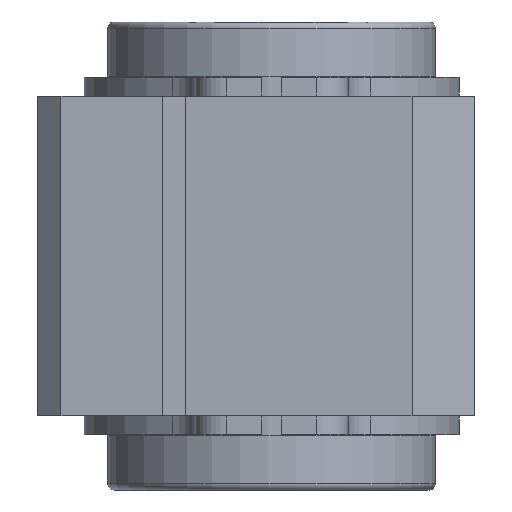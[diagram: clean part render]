
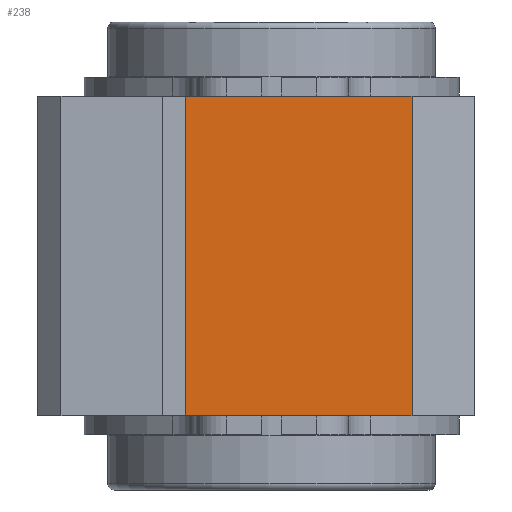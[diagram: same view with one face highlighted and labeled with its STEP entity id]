
A CAD part, left-side view. The second image highlights one B-rep face of the part: STEP entity #238.
In plain terms, the highlighted planar face has unit normal (-1, 0, 0).
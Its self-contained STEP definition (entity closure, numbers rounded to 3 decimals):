
#238=ADVANCED_FACE('',(#335),#336,.F.);
#335=FACE_OUTER_BOUND('',#506,.T.);
#336=PLANE('',#507);
#506=EDGE_LOOP('',(#785,#786,#787,#788));
#507=AXIS2_PLACEMENT_3D('',#789,#790,#791);
#785=ORIENTED_EDGE('',*,*,#1155,.T.);
#786=ORIENTED_EDGE('',*,*,#1174,.F.);
#787=ORIENTED_EDGE('',*,*,#1132,.F.);
#788=ORIENTED_EDGE('',*,*,#1175,.T.);
#789=CARTESIAN_POINT('',(-19.5,5.5,10.25));
#790=DIRECTION('',(1.0,0.,0.0));
#791=DIRECTION('',(0.,1.0,0.0));
#1132=EDGE_CURVE('',#1287,#1289,#1290,.T.);
#1155=EDGE_CURVE('',#1334,#1332,#1335,.T.);
#1174=EDGE_CURVE('',#1289,#1332,#1362,.T.);
#1175=EDGE_CURVE('',#1287,#1334,#1363,.T.);
#1287=VERTEX_POINT('',#1548);
#1289=VERTEX_POINT('',#1551);
#1290=LINE('',#1552,#1553);
#1332=VERTEX_POINT('',#1615);
#1334=VERTEX_POINT('',#1618);
#1335=LINE('',#1619,#1620);
#1362=LINE('',#1660,#1661);
#1363=LINE('',#1662,#1663);
#1548=CARTESIAN_POINT('',(-19.5,5.5,10.25));
#1551=CARTESIAN_POINT('',(-19.5,-9.0,10.25));
#1552=CARTESIAN_POINT('',(-19.5,5.5,10.25));
#1553=VECTOR('',#1870,1.0);
#1615=CARTESIAN_POINT('',(-19.5,-9.0,-10.25));
#1618=CARTESIAN_POINT('',(-19.5,5.5,-10.25));
#1619=CARTESIAN_POINT('',(-19.5,5.5,-10.25));
#1620=VECTOR('',#1895,1.0);
#1660=CARTESIAN_POINT('',(-19.5,-9.0,10.25));
#1661=VECTOR('',#1924,1.0);
#1662=CARTESIAN_POINT('',(-19.5,5.5,10.25));
#1663=VECTOR('',#1925,1.0);
#1870=DIRECTION('',(0.,-1.0,0.0));
#1895=DIRECTION('',(0.,-1.0,0.0));
#1924=DIRECTION('',(0.0,0.0,-1.0));
#1925=DIRECTION('',(0.0,0.0,-1.0));
